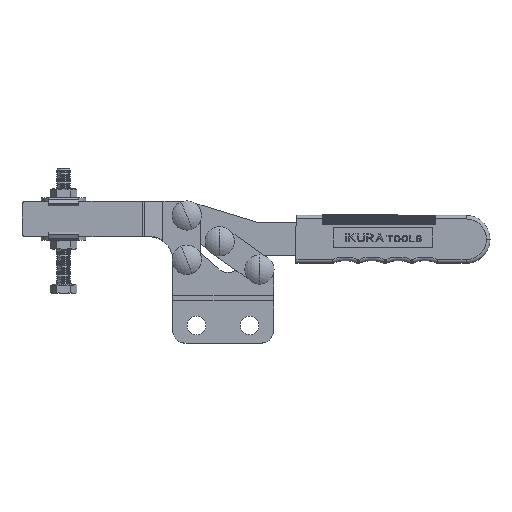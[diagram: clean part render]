
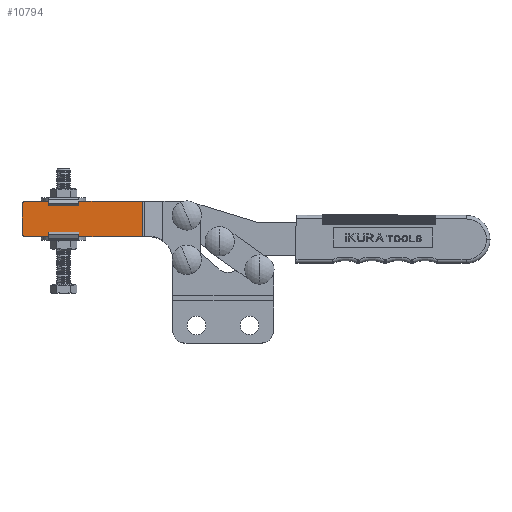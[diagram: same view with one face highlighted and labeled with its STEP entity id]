
A CAD part, top view. The second image highlights one B-rep face of the part: STEP entity #10794.
In plain terms, the highlighted planar face has unit normal (0, 0, 1).
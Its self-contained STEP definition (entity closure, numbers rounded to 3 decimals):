
#1366 = CARTESIAN_POINT ( 'NONE',  ( -101., -41., 6.5 ) ) ;
#2513 = LINE ( 'NONE', #54756, #27458 ) ;
#2646 = DIRECTION ( 'NONE',  ( 1., 0., 0. ) ) ;
#3335 = CIRCLE ( 'NONE', #45609, 2. ) ;
#6641 = LINE ( 'NONE', #7107, #42609 ) ;
#7107 = CARTESIAN_POINT ( 'NONE',  ( -101., 0., 6.5 ) ) ;
#8218 = VERTEX_POINT ( 'NONE', #47877 ) ;
#10794 = ADVANCED_FACE ( 'NONE', ( #15674 ), #43599, .T. ) ;
#11842 = DIRECTION ( 'NONE',  ( 1., 0., 0. ) ) ;
#12793 = EDGE_LOOP ( 'NONE', ( #26207, #53211, #18233, #56335, #58159, #26070 ) ) ;
#12967 = DIRECTION ( 'NONE',  ( 0., 0., 1. ) ) ;
#13093 = EDGE_CURVE ( 'NONE', #33108, #21928, #2513, .T. ) ;
#13790 = EDGE_CURVE ( 'NONE', #37375, #8218, #43530, .T. ) ;
#15674 = FACE_OUTER_BOUND ( 'NONE', #12793, .T. ) ;
#17074 = VECTOR ( 'NONE', #60612, 1000. ) ;
#18233 = ORIENTED_EDGE ( 'NONE', *, *, #13093, .T. ) ;
#21554 = EDGE_CURVE ( 'NONE', #37375, #33108, #40215, .T. ) ;
#21913 = DIRECTION ( 'NONE',  ( 1., 0., 0. ) ) ;
#21928 = VERTEX_POINT ( 'NONE', #48161 ) ;
#22851 = CARTESIAN_POINT ( 'NONE',  ( -99., -20., 6.5 ) ) ;
#26070 = ORIENTED_EDGE ( 'NONE', *, *, #34037, .T. ) ;
#26207 = ORIENTED_EDGE ( 'NONE', *, *, #13790, .F. ) ;
#26928 = AXIS2_PLACEMENT_3D ( 'NONE', #1366, #57739, #29594 ) ;
#27458 = VECTOR ( 'NONE', #21913, 1000. ) ;
#28561 = CARTESIAN_POINT ( 'NONE',  ( -33.078, 0., 6.5 ) ) ;
#29594 = DIRECTION ( 'NONE',  ( 1., 0., 0. ) ) ;
#30195 = VERTEX_POINT ( 'NONE', #45296 ) ;
#30674 = DIRECTION ( 'NONE',  ( 0., 0., 1. ) ) ;
#30961 = LINE ( 'NONE', #32469, #17074 ) ;
#32469 = CARTESIAN_POINT ( 'NONE',  ( -33.078, -41., 6.5 ) ) ;
#33108 = VERTEX_POINT ( 'NONE', #22851 ) ;
#33715 = VERTEX_POINT ( 'NONE', #28561 ) ;
#34037 = EDGE_CURVE ( 'NONE', #30195, #8218, #3335, .T. ) ;
#36888 = AXIS2_PLACEMENT_3D ( 'NONE', #58811, #30674, #2646 ) ;
#37375 = VERTEX_POINT ( 'NONE', #60226 ) ;
#40215 = CIRCLE ( 'NONE', #36888, 2. ) ;
#41037 = CARTESIAN_POINT ( 'NONE',  ( -99., -2., 6.5 ) ) ;
#42160 = CARTESIAN_POINT ( 'NONE',  ( -101., -41., 6.5 ) ) ;
#42609 = VECTOR ( 'NONE', #11842, 1000. ) ;
#43530 = LINE ( 'NONE', #42160, #54548 ) ;
#43599 = PLANE ( 'NONE',  #26928 ) ;
#45296 = CARTESIAN_POINT ( 'NONE',  ( -99., 0., 6.5 ) ) ;
#45609 = AXIS2_PLACEMENT_3D ( 'NONE', #41037, #12967, #45785 ) ;
#45785 = DIRECTION ( 'NONE',  ( 1., 0., 0. ) ) ;
#46025 = EDGE_CURVE ( 'NONE', #21928, #33715, #30961, .T. ) ;
#47877 = CARTESIAN_POINT ( 'NONE',  ( -101., -2., 6.5 ) ) ;
#48161 = CARTESIAN_POINT ( 'NONE',  ( -33.078, -20., 6.5 ) ) ;
#53211 = ORIENTED_EDGE ( 'NONE', *, *, #21554, .T. ) ;
#54548 = VECTOR ( 'NONE', #56302, 1000. ) ;
#54756 = CARTESIAN_POINT ( 'NONE',  ( -101., -20., 6.5 ) ) ;
#56302 = DIRECTION ( 'NONE',  ( 0., 1., 0. ) ) ;
#56335 = ORIENTED_EDGE ( 'NONE', *, *, #46025, .T. ) ;
#57739 = DIRECTION ( 'NONE',  ( 0., 0., 1. ) ) ;
#57850 = EDGE_CURVE ( 'NONE', #30195, #33715, #6641, .T. ) ;
#58159 = ORIENTED_EDGE ( 'NONE', *, *, #57850, .F. ) ;
#58811 = CARTESIAN_POINT ( 'NONE',  ( -99., -18., 6.5 ) ) ;
#60226 = CARTESIAN_POINT ( 'NONE',  ( -101., -18., 6.5 ) ) ;
#60612 = DIRECTION ( 'NONE',  ( 0., 1., 0. ) ) ;
